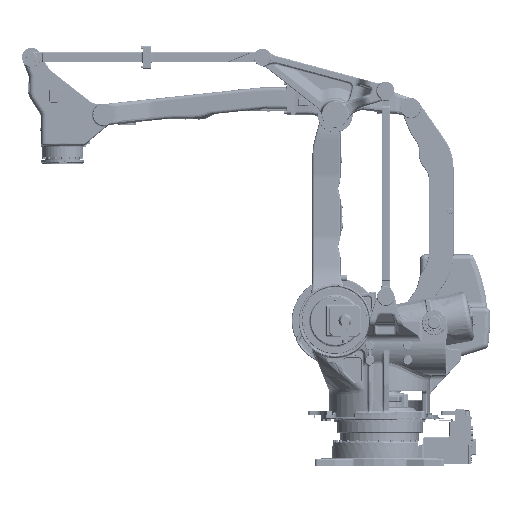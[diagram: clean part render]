
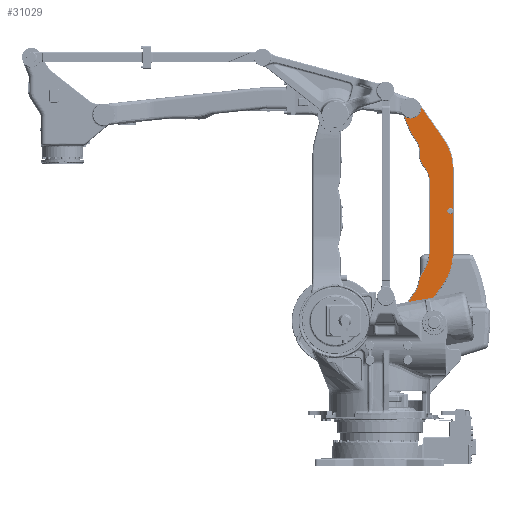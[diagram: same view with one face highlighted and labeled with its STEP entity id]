
A CAD part, top view. The second image highlights one B-rep face of the part: STEP entity #31029.
In plain terms, the highlighted planar face has unit normal (0, 0, 1).
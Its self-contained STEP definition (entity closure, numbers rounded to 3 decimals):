
#20293=FACE_OUTER_BOUND('',#47833,.T.);
#31029=ADVANCED_FACE('',(#20293),#36960,.F.);
#36960=PLANE('',#188481);
#47833=EDGE_LOOP('',(#97239,#97240,#97241,#97242,#97243,#97244,#97245,#97246,
#97247,#97248,#97249,#97250,#97251,#97252,#97253,#97254,#97255,#97256,#97257,
#97258,#97259,#97260,#97261,#97262));
#59941=CIRCLE('',#188469,305.);
#59942=CIRCLE('',#188470,64.);
#59943=CIRCLE('',#188471,95.);
#59944=CIRCLE('',#188472,105.);
#59945=CIRCLE('',#188473,95.);
#59946=CIRCLE('',#188474,105.);
#59947=CIRCLE('',#188475,205.);
#59948=CIRCLE('',#188476,95.);
#59949=CIRCLE('',#188477,105.);
#59950=CIRCLE('',#188478,64.);
#59951=CIRCLE('',#188479,305.);
#59952=CIRCLE('',#188480,18.);
#97239=ORIENTED_EDGE('',*,*,#146780,.T.);
#97240=ORIENTED_EDGE('',*,*,#146781,.T.);
#97241=ORIENTED_EDGE('',*,*,#146782,.T.);
#97242=ORIENTED_EDGE('',*,*,#146783,.T.);
#97243=ORIENTED_EDGE('',*,*,#146784,.T.);
#97244=ORIENTED_EDGE('',*,*,#146785,.T.);
#97245=ORIENTED_EDGE('',*,*,#146786,.T.);
#97246=ORIENTED_EDGE('',*,*,#146787,.T.);
#97247=ORIENTED_EDGE('',*,*,#146788,.T.);
#97248=ORIENTED_EDGE('',*,*,#146789,.T.);
#97249=ORIENTED_EDGE('',*,*,#146790,.T.);
#97250=ORIENTED_EDGE('',*,*,#146791,.T.);
#97251=ORIENTED_EDGE('',*,*,#146792,.T.);
#97252=ORIENTED_EDGE('',*,*,#146793,.T.);
#97253=ORIENTED_EDGE('',*,*,#146794,.T.);
#97254=ORIENTED_EDGE('',*,*,#146795,.T.);
#97255=ORIENTED_EDGE('',*,*,#146796,.T.);
#97256=ORIENTED_EDGE('',*,*,#146797,.T.);
#97257=ORIENTED_EDGE('',*,*,#146798,.T.);
#97258=ORIENTED_EDGE('',*,*,#146799,.T.);
#97259=ORIENTED_EDGE('',*,*,#146800,.T.);
#97260=ORIENTED_EDGE('',*,*,#146801,.T.);
#97261=ORIENTED_EDGE('',*,*,#146802,.T.);
#97262=ORIENTED_EDGE('',*,*,#146803,.T.);
#124974=VERTEX_POINT('',#381312);
#124975=VERTEX_POINT('',#381313);
#124976=VERTEX_POINT('',#381315);
#124977=VERTEX_POINT('',#381317);
#124978=VERTEX_POINT('',#381319);
#124979=VERTEX_POINT('',#381321);
#124980=VERTEX_POINT('',#381323);
#124981=VERTEX_POINT('',#381325);
#124982=VERTEX_POINT('',#381327);
#124983=VERTEX_POINT('',#381329);
#124984=VERTEX_POINT('',#381331);
#124985=VERTEX_POINT('',#381333);
#124986=VERTEX_POINT('',#381335);
#124987=VERTEX_POINT('',#381337);
#124988=VERTEX_POINT('',#381339);
#124989=VERTEX_POINT('',#381341);
#124990=VERTEX_POINT('',#381343);
#124991=VERTEX_POINT('',#381345);
#124992=VERTEX_POINT('',#381347);
#124993=VERTEX_POINT('',#381349);
#124994=VERTEX_POINT('',#381351);
#124995=VERTEX_POINT('',#381353);
#124996=VERTEX_POINT('',#381355);
#124997=VERTEX_POINT('',#381357);
#146780=EDGE_CURVE('',#124974,#124975,#161940,.T.);
#146781=EDGE_CURVE('',#124975,#124976,#59941,.T.);
#146782=EDGE_CURVE('',#124976,#124977,#161941,.T.);
#146783=EDGE_CURVE('',#124977,#124978,#59942,.T.);
#146784=EDGE_CURVE('',#124978,#124979,#161942,.T.);
#146785=EDGE_CURVE('',#124979,#124980,#59943,.T.);
#146786=EDGE_CURVE('',#124980,#124981,#161943,.T.);
#146787=EDGE_CURVE('',#124981,#124982,#59944,.T.);
#146788=EDGE_CURVE('',#124982,#124983,#161944,.T.);
#146789=EDGE_CURVE('',#124983,#124984,#59945,.T.);
#146790=EDGE_CURVE('',#124984,#124985,#161945,.T.);
#146791=EDGE_CURVE('',#124985,#124986,#59946,.T.);
#146792=EDGE_CURVE('',#124986,#124987,#161946,.T.);
#146793=EDGE_CURVE('',#124987,#124988,#59947,.T.);
#146794=EDGE_CURVE('',#124988,#124989,#161947,.T.);
#146795=EDGE_CURVE('',#124989,#124990,#59948,.T.);
#146796=EDGE_CURVE('',#124990,#124991,#161948,.T.);
#146797=EDGE_CURVE('',#124991,#124992,#59949,.T.);
#146798=EDGE_CURVE('',#124992,#124993,#161949,.T.);
#146799=EDGE_CURVE('',#124993,#124994,#59950,.T.);
#146800=EDGE_CURVE('',#124994,#124995,#161950,.T.);
#146801=EDGE_CURVE('',#124995,#124996,#59951,.T.);
#146802=EDGE_CURVE('',#124996,#124997,#161951,.T.);
#146803=EDGE_CURVE('',#124997,#124974,#59952,.T.);
#161940=LINE('',#381311,#171408);
#161941=LINE('',#381316,#171409);
#161942=LINE('',#381320,#171410);
#161943=LINE('',#381324,#171411);
#161944=LINE('',#381328,#171412);
#161945=LINE('',#381332,#171413);
#161946=LINE('',#381336,#171414);
#161947=LINE('',#381340,#171415);
#161948=LINE('',#381344,#171416);
#161949=LINE('',#381348,#171417);
#161950=LINE('',#381352,#171418);
#161951=LINE('',#381356,#171419);
#171408=VECTOR('',#230301,1.);
#171409=VECTOR('',#230304,1.);
#171410=VECTOR('',#230307,1.);
#171411=VECTOR('',#230310,1.);
#171412=VECTOR('',#230313,1.);
#171413=VECTOR('',#230316,1.);
#171414=VECTOR('',#230319,1.);
#171415=VECTOR('',#230322,1.);
#171416=VECTOR('',#230325,1.);
#171417=VECTOR('',#230328,1.);
#171418=VECTOR('',#230331,1.);
#171419=VECTOR('',#230334,1.);
#188469=AXIS2_PLACEMENT_3D('',#381314,#230302,#230303);
#188470=AXIS2_PLACEMENT_3D('',#381318,#230305,#230306);
#188471=AXIS2_PLACEMENT_3D('',#381322,#230308,#230309);
#188472=AXIS2_PLACEMENT_3D('',#381326,#230311,#230312);
#188473=AXIS2_PLACEMENT_3D('',#381330,#230314,#230315);
#188474=AXIS2_PLACEMENT_3D('',#381334,#230317,#230318);
#188475=AXIS2_PLACEMENT_3D('',#381338,#230320,#230321);
#188476=AXIS2_PLACEMENT_3D('',#381342,#230323,#230324);
#188477=AXIS2_PLACEMENT_3D('',#381346,#230326,#230327);
#188478=AXIS2_PLACEMENT_3D('',#381350,#230329,#230330);
#188479=AXIS2_PLACEMENT_3D('',#381354,#230332,#230333);
#188480=AXIS2_PLACEMENT_3D('',#381358,#230335,#230336);
#188481=AXIS2_PLACEMENT_3D('',#381359,#230337,#230338);
#230301=DIRECTION('',(0.,1.,0.));
#230302=DIRECTION('',(0.,0.,1.));
#230303=DIRECTION('',(1.,0.,0.));
#230304=DIRECTION('',(-0.574,0.819,0.));
#230305=DIRECTION('',(0.,0.,-1.));
#230306=DIRECTION('',(0.997,0.074,0.));
#230307=DIRECTION('',(0.382,-0.924,0.));
#230308=DIRECTION('',(0.,0.,1.));
#230309=DIRECTION('',(-0.924,-0.382,0.));
#230310=DIRECTION('',(0.574,-0.819,0.));
#230311=DIRECTION('',(0.,0.,-1.));
#230312=DIRECTION('',(0.819,0.574,0.));
#230313=DIRECTION('',(0.,-1.,0.));
#230314=DIRECTION('',(0.,0.,1.));
#230315=DIRECTION('',(-1.,0.,0.));
#230316=DIRECTION('',(0.574,-0.819,0.));
#230317=DIRECTION('',(0.,0.,-1.));
#230318=DIRECTION('',(0.819,0.574,0.));
#230319=DIRECTION('',(0.,-1.,0.));
#230320=DIRECTION('',(0.,0.,-1.));
#230321=DIRECTION('',(1.,0.,0.));
#230322=DIRECTION('',(-0.574,-0.819,0.));
#230323=DIRECTION('',(0.,0.,1.));
#230324=DIRECTION('',(-0.819,0.574,0.));
#230325=DIRECTION('',(-0.228,-0.974,0.));
#230326=DIRECTION('',(0.,0.,-1.));
#230327=DIRECTION('',(0.974,-0.228,0.));
#230328=DIRECTION('',(-0.574,-0.819,0.));
#230329=DIRECTION('',(0.,0.,-1.));
#230330=DIRECTION('',(-0.411,0.912,0.));
#230331=DIRECTION('',(0.574,0.819,0.));
#230332=DIRECTION('',(0.,0.,1.));
#230333=DIRECTION('',(0.819,-0.574,0.));
#230334=DIRECTION('',(0.,1.,0.));
#230335=DIRECTION('',(0.,0.,-1.));
#230336=DIRECTION('',(0.833,-0.553,0.));
#230337=DIRECTION('',(0.,0.,-1.));
#230338=DIRECTION('',(1.,0.,0.));
#381311=CARTESIAN_POINT('',(443.25,1555.042,-76.5));
#381312=CARTESIAN_POINT('',(443.25,1555.042,-76.5));
#381313=CARTESIAN_POINT('',(443.25,1805.637,-76.5));
#381314=CARTESIAN_POINT('',(138.25,1805.637,-76.5));
#381315=CARTESIAN_POINT('',(388.091,1980.578,-76.5));
#381316=CARTESIAN_POINT('',(388.091,1980.578,-76.5));
#381317=CARTESIAN_POINT('',(252.074,2174.831,-76.5));
#381318=CARTESIAN_POINT('',(188.25,2170.092,-76.5));
#381319=CARTESIAN_POINT('',(149.943,2118.821,-76.5));
#381320=CARTESIAN_POINT('',(149.943,2118.821,-76.5));
#381321=CARTESIAN_POINT('',(188.676,2025.228,-76.5));
#381322=CARTESIAN_POINT('',(276.456,2061.554,-76.5));
#381323=CARTESIAN_POINT('',(198.636,2007.065,-76.5));
#381324=CARTESIAN_POINT('',(198.636,2007.065,-76.5));
#381325=CARTESIAN_POINT('',(224.261,1970.47,-76.5));
#381326=CARTESIAN_POINT('',(138.25,1910.244,-76.5));
#381327=CARTESIAN_POINT('',(243.25,1910.244,-76.5));
#381328=CARTESIAN_POINT('',(243.25,1910.244,-76.5));
#381329=CARTESIAN_POINT('',(243.25,1883.304,-76.5));
#381330=CARTESIAN_POINT('',(338.25,1883.304,-76.5));
#381331=CARTESIAN_POINT('',(260.43,1828.814,-76.5));
#381332=CARTESIAN_POINT('',(260.43,1828.814,-76.5));
#381333=CARTESIAN_POINT('',(284.261,1794.781,-76.5));
#381334=CARTESIAN_POINT('',(198.25,1734.555,-76.5));
#381335=CARTESIAN_POINT('',(303.25,1734.555,-76.5));
#381336=CARTESIAN_POINT('',(303.25,1734.555,-76.5));
#381337=CARTESIAN_POINT('',(303.25,1297.158,-76.5));
#381338=CARTESIAN_POINT('',(98.25,1297.158,-76.5));
#381339=CARTESIAN_POINT('',(266.176,1179.575,-76.5));
#381340=CARTESIAN_POINT('',(266.176,1179.575,-76.5));
#381341=CARTESIAN_POINT('',(258.722,1168.93,-76.5));
#381342=CARTESIAN_POINT('',(336.542,1114.441,-76.5));
#381343=CARTESIAN_POINT('',(244.051,1136.132,-76.5));
#381344=CARTESIAN_POINT('',(244.051,1136.132,-76.5));
#381345=CARTESIAN_POINT('',(234.402,1094.987,-76.5));
#381346=CARTESIAN_POINT('',(132.176,1118.961,-76.5));
#381347=CARTESIAN_POINT('',(218.187,1058.736,-76.5));
#381348=CARTESIAN_POINT('',(218.187,1058.736,-76.5));
#381349=CARTESIAN_POINT('',(161.967,978.446,-76.5));
#381350=CARTESIAN_POINT('',(188.25,920.092,-76.5));
#381351=CARTESIAN_POINT('',(252.074,915.353,-76.5));
#381352=CARTESIAN_POINT('',(252.074,915.353,-76.5));
#381353=CARTESIAN_POINT('',(388.091,1109.605,-76.5));
#381354=CARTESIAN_POINT('',(138.25,1284.546,-76.5));
#381355=CARTESIAN_POINT('',(443.25,1284.546,-76.5));
#381356=CARTESIAN_POINT('',(443.25,1284.546,-76.5));
#381357=CARTESIAN_POINT('',(443.25,1535.142,-76.5));
#381358=CARTESIAN_POINT('',(428.25,1545.092,-76.5));
#381359=CARTESIAN_POINT('',(188.25,920.092,-76.5));
